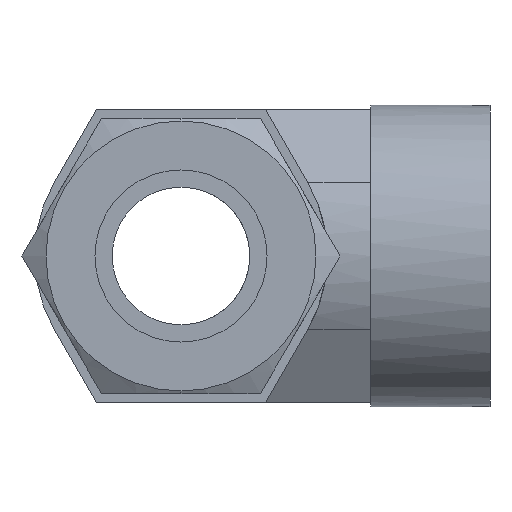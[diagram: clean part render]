
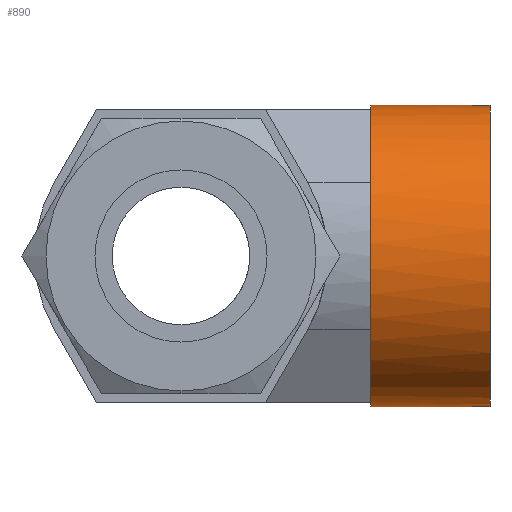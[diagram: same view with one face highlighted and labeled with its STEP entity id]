
A CAD part, left-side view. The second image highlights one B-rep face of the part: STEP entity #890.
In plain terms, the highlighted cylindrical face has radius 13.9 mm (diameter 27.8 mm), a partial arc.
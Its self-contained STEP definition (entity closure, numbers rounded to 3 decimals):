
#3 = VERTEX_POINT ( 'NONE', #962 ) ;
#8 = EDGE_CURVE ( 'NONE', #27, #3, #949, .T. ) ;
#18 = VERTEX_POINT ( 'NONE', #984 ) ;
#23 = EDGE_CURVE ( 'NONE', #29, #18, #977, .T. ) ;
#27 = VERTEX_POINT ( 'NONE', #1026 ) ;
#29 = VERTEX_POINT ( 'NONE', #1025 ) ;
#62 = ORIENTED_EDGE ( 'NONE', *, *, #889, .T. ) ;
#310 = EDGE_CURVE ( 'NONE', #311, #312, #1717, .T. ) ;
#311 = VERTEX_POINT ( 'NONE', #1712 ) ;
#312 = VERTEX_POINT ( 'NONE', #1711 ) ;
#329 = EDGE_CURVE ( 'NONE', #330, #384, #1740, .T. ) ;
#330 = VERTEX_POINT ( 'NONE', #1736 ) ;
#384 = VERTEX_POINT ( 'NONE', #1857 ) ;
#828 = EDGE_CURVE ( 'NONE', #384, #311, #2653, .T. ) ;
#844 = EDGE_CURVE ( 'NONE', #3, #330, #2706, .T. ) ;
#889 = EDGE_CURVE ( 'NONE', #312, #18, #2718, .T. ) ;
#890 = ADVANCED_FACE ( 'NONE', ( #2773 ), #2772, .T. ) ;
#891 = EDGE_LOOP ( 'NONE', ( #892, #893, #895, #896, #897, #898, #899, #62 ) ) ;
#892 = ORIENTED_EDGE ( 'NONE', *, *, #23, .F. ) ;
#893 = ORIENTED_EDGE ( 'NONE', *, *, #894, .F. ) ;
#894 = EDGE_CURVE ( 'NONE', #27, #29, #2767, .T. ) ;
#895 = ORIENTED_EDGE ( 'NONE', *, *, #8, .T. ) ;
#896 = ORIENTED_EDGE ( 'NONE', *, *, #844, .T. ) ;
#897 = ORIENTED_EDGE ( 'NONE', *, *, #329, .T. ) ;
#898 = ORIENTED_EDGE ( 'NONE', *, *, #828, .T. ) ;
#899 = ORIENTED_EDGE ( 'NONE', *, *, #310, .T. ) ;
#946 = DIRECTION ( 'NONE',  ( 0., 1., 0. ) ) ;
#947 = VECTOR ( 'NONE', #946, 1000. ) ;
#948 = CARTESIAN_POINT ( 'NONE',  ( 0., -28.5, 13.9 ) ) ;
#949 = LINE ( 'NONE', #948, #947 ) ;
#962 = CARTESIAN_POINT ( 'NONE',  ( 0., -17.5, 13.9 ) ) ;
#969 = DIRECTION ( 'NONE',  ( 0., 1., 0. ) ) ;
#970 = VECTOR ( 'NONE', #969, 1000. ) ;
#971 = CARTESIAN_POINT ( 'NONE',  ( 0., -28.5, -13.9 ) ) ;
#977 = LINE ( 'NONE', #971, #970 ) ;
#984 = CARTESIAN_POINT ( 'NONE',  ( 0., -17.5, -13.9 ) ) ;
#1025 = CARTESIAN_POINT ( 'NONE',  ( 0., -28.5, -13.9 ) ) ;
#1026 = CARTESIAN_POINT ( 'NONE',  ( 0., -28.5, 13.9 ) ) ;
#1711 = CARTESIAN_POINT ( 'NONE',  ( -3.311, -17.5, -13.5 ) ) ;
#1712 = CARTESIAN_POINT ( 'NONE',  ( -10.036, -17.5, -9.617 ) ) ;
#1713 = DIRECTION ( 'NONE',  ( 0., 0., -1. ) ) ;
#1714 = DIRECTION ( 'NONE',  ( 0., -1., 0. ) ) ;
#1715 = CARTESIAN_POINT ( 'NONE',  ( 0., -17.5, 0. ) ) ;
#1716 = AXIS2_PLACEMENT_3D ( 'NONE', #1715, #1714, #1713 ) ;
#1717 = CIRCLE ( 'NONE', #1716, 13.9 ) ;
#1736 = CARTESIAN_POINT ( 'NONE',  ( -3.311, -17.5, 13.5 ) ) ;
#1737 = DIRECTION ( 'NONE',  ( 0., 0., -1. ) ) ;
#1738 = DIRECTION ( 'NONE',  ( 0., -1., 0. ) ) ;
#1739 = AXIS2_PLACEMENT_3D ( 'NONE', #1744, #1738, #1737 ) ;
#1740 = CIRCLE ( 'NONE', #1739, 13.9 ) ;
#1744 = CARTESIAN_POINT ( 'NONE',  ( 0., -17.5, 0. ) ) ;
#1857 = CARTESIAN_POINT ( 'NONE',  ( -10.036, -17.5, 9.617 ) ) ;
#2650 = DIRECTION ( 'NONE',  ( 0., 0., -1. ) ) ;
#2651 = DIRECTION ( 'NONE',  ( 0., -1., 0. ) ) ;
#2652 = AXIS2_PLACEMENT_3D ( 'NONE', #2659, #2651, #2650 ) ;
#2653 = CIRCLE ( 'NONE', #2652, 13.9 ) ;
#2659 = CARTESIAN_POINT ( 'NONE',  ( 0., -17.5, 0. ) ) ;
#2703 = DIRECTION ( 'NONE',  ( 0., 0., -1. ) ) ;
#2704 = DIRECTION ( 'NONE',  ( 0., -1., 0. ) ) ;
#2705 = AXIS2_PLACEMENT_3D ( 'NONE', #2712, #2704, #2703 ) ;
#2706 = CIRCLE ( 'NONE', #2705, 13.9 ) ;
#2712 = CARTESIAN_POINT ( 'NONE',  ( 0., -17.5, 0. ) ) ;
#2713 = CARTESIAN_POINT ( 'NONE',  ( 0., -17.5, 0. ) ) ;
#2714 = AXIS2_PLACEMENT_3D ( 'NONE', #2713, #2775, #2774 ) ;
#2718 = CIRCLE ( 'NONE', #2714, 13.9 ) ;
#2763 = DIRECTION ( 'NONE',  ( 0., 0., -1. ) ) ;
#2764 = DIRECTION ( 'NONE',  ( 0., -1., 0. ) ) ;
#2765 = CARTESIAN_POINT ( 'NONE',  ( 0., -28.5, 0. ) ) ;
#2766 = AXIS2_PLACEMENT_3D ( 'NONE', #2765, #2764, #2763 ) ;
#2767 = CIRCLE ( 'NONE', #2766, 13.9 ) ;
#2768 = DIRECTION ( 'NONE',  ( 0., 0., 1. ) ) ;
#2769 = DIRECTION ( 'NONE',  ( 0., 1., 0. ) ) ;
#2770 = CARTESIAN_POINT ( 'NONE',  ( 0., -28.5, 0. ) ) ;
#2771 = AXIS2_PLACEMENT_3D ( 'NONE', #2770, #2769, #2768 ) ;
#2772 = CYLINDRICAL_SURFACE ( 'NONE', #2771, 13.9 ) ;
#2773 = FACE_OUTER_BOUND ( 'NONE', #891, .T. ) ;
#2774 = DIRECTION ( 'NONE',  ( 0., 0., -1. ) ) ;
#2775 = DIRECTION ( 'NONE',  ( 0., -1., 0. ) ) ;
